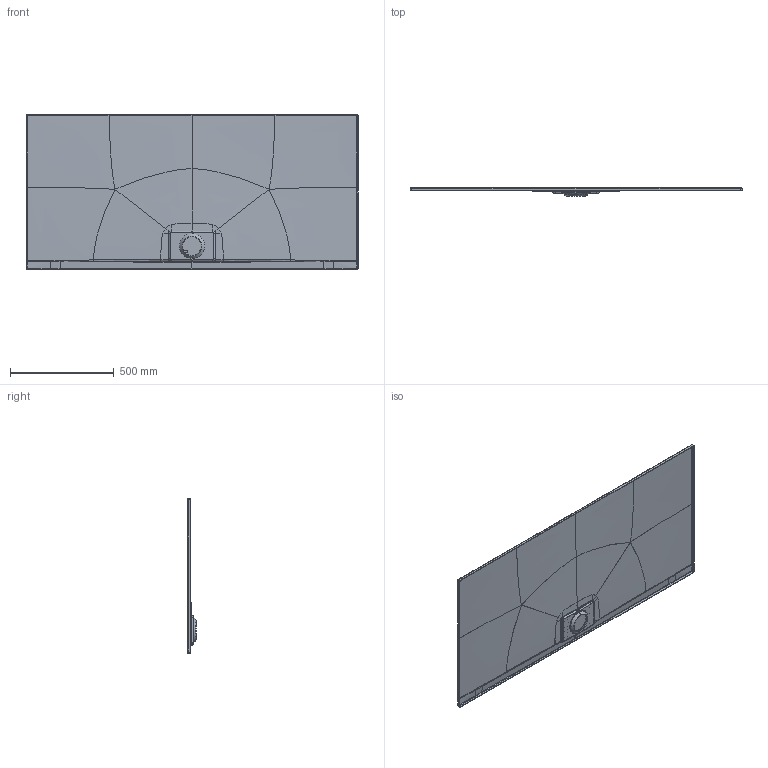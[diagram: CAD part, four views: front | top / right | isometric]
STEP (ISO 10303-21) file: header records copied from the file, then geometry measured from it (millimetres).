
FILE_DESCRIPTION((''),'2;1');
FILE_NAME('UDA1675ARA215_ARCHITECTURA_META_ASM','2022-07-12T15:09:23',('GrootJ'),('Villeroy & Boch Wellness bv'),'CREO PARAMETRIC BY PTC INC, 2020454','CREO PARAMETRIC BY PTC INC, 2020454','');
FILE_SCHEMA(('CONFIG_CONTROL_DESIGN'));
Products named in the file (6): G0500027_22; G0500024_69; G0500026_ASM_11_ASM; METALRIM_COVER_GEPLAATST120722_ASM; METALRIM-LOGO_12072022; UDA1675ARA215_ARCHITECTURA_META_ASM
Assembly tree (5 placements, depth 4):
  UDA1675ARA215_ARCHITECTURA_META_ASM
    METALRIM_COVER_GEPLAATST120722_ASM
      G0500026_ASM_11_ASM
        G0500027_22
        G0500024_69
    METALRIM-LOGO_12072022
Bounding box: 1600 x 42 x 750 mm (x, y, z)
Volume: 119920.3 mm3; surface area: 2621716.4 mm2
Topology: 30 solids, 33 shells, 1179 faces, 3064 edges, 1916 vertices
Faces by surface type: plane 422, extrusion 241, cylinder 173, bspline 171, cone 114, sphere 36, torus 22
Entity records: 49787 total; most frequent: CARTESIAN_POINT 23767, ORIENTED_EDGE 6082, DIRECTION 4038, EDGE_CURVE 3045, VERTEX_POINT 1916, VECTOR 1558, B_SPLINE_CURVE_WITH_KNOTS 1510, LINE 1317
